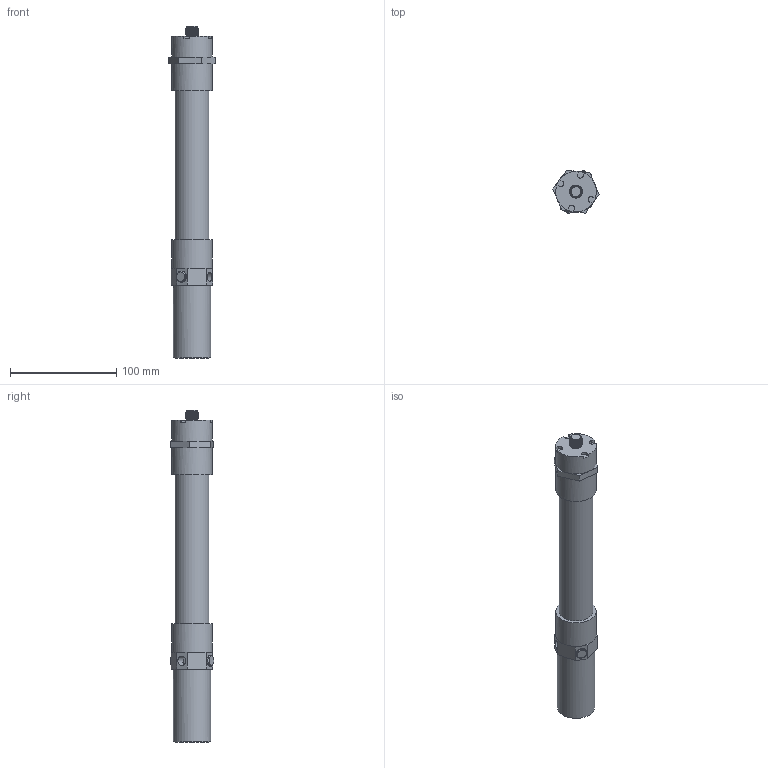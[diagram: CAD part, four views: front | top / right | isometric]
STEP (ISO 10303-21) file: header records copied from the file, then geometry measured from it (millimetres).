
FILE_DESCRIPTION(/* description */ (''),/* implementation_level */ '2;1');
FILE_NAME(/* name */ 'ASSY,VFIA,22MM,CLAMP MOUNT,140MM,S3 (614-49775) STEP FILE - REV C.stp',/* time_stamp */ '2026-01-21T08:31:59-05:00',/* author */ ('ASSY,VFIA,22MM,CLAMP MOUNT,140MM,S3'),/* organization */ ('CenterLine (Windsor) Limited'),/* preprocessor_version */ 'ST-DEVELOPER v20',/* originating_system */ 'Autodesk Inventor 2024',/* authorisation */ '');
FILE_SCHEMA (('AUTOMOTIVE_DESIGN { 1 0 10303 214 3 1 1 }'));
Length unit declared in the file: centimetre
Products named in the file (2): Assembly11; [Primary]_ASSY,VFIA,22MM,CLAMP MOUNT,140MM,S3
Assembly tree (1 placements, depth 2):
  Assembly11
    [Primary]_ASSY,VFIA,22MM,CLAMP MOUNT,140MM,S3
Bounding box: 43.71 x 40.87 x 311.97 mm (x, y, z)
Volume: 282684.1 mm3; surface area: 37642 mm2
Topology: 1 solids, 1 shells, 117 faces, 283 edges, 178 vertices
Faces by surface type: plane 73, cylinder 25, bspline 9, cone 8, torus 2
Full cylindrical faces by diameter (mm): 8.731 x2, 10 x1, 10.6 x2, 12 x5, 31.75 x1, 34.925 x1, 38.1 x3
Entity records: 8923 total; most frequent: CARTESIAN_POINT 6137, ORIENTED_EDGE 566, DIRECTION 566, EDGE_CURVE 283, AXIS2_PLACEMENT_3D 209, VERTEX_POINT 177, LINE 148, VECTOR 148
